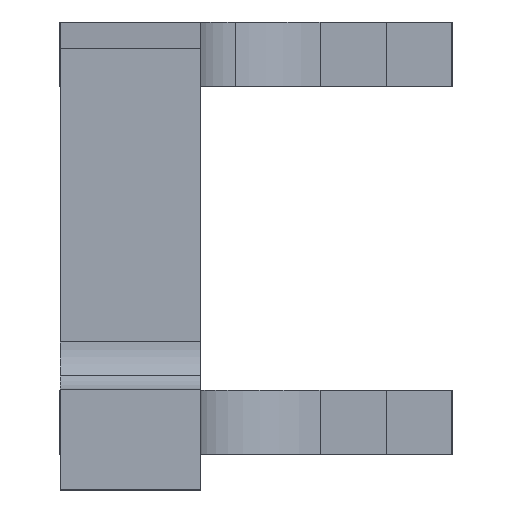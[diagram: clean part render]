
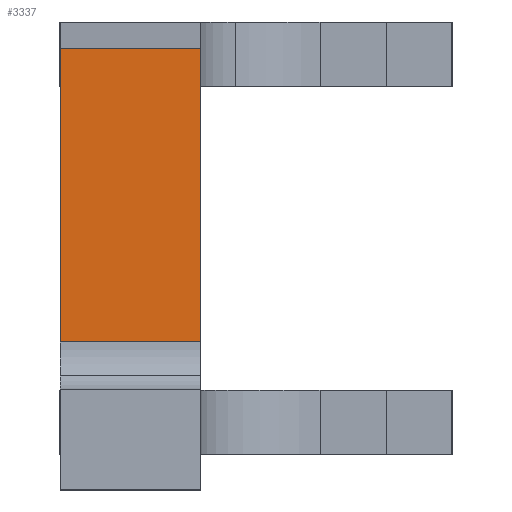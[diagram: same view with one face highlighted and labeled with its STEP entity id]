
A CAD part, left-side view. The second image highlights one B-rep face of the part: STEP entity #3337.
In plain terms, the highlighted planar face has unit normal (-1, 0, 0).
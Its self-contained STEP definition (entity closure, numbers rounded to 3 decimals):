
#2714=CARTESIAN_POINT('',(-132.393,-4.261,12.));
#2715=VERTEX_POINT('',#2714);
#2723=CARTESIAN_POINT('',(-132.393,30.739,12.));
#2724=VERTEX_POINT('',#2723);
#2725=CARTESIAN_POINT('',(-132.393,-4.261,12.));
#2726=DIRECTION('',(0.0,1.0,0.0));
#2727=VECTOR('',#2726,35.);
#2728=LINE('',#2725,#2727);
#2729=EDGE_CURVE('',#2715,#2724,#2728,.T.);
#3224=CARTESIAN_POINT('',(-132.393,30.739,85.301));
#3225=VERTEX_POINT('',#3224);
#3226=CARTESIAN_POINT('',(-132.393,30.739,12.));
#3227=DIRECTION('',(0.0,0.0,1.0));
#3228=VECTOR('',#3227,73.301);
#3229=LINE('',#3226,#3228);
#3230=EDGE_CURVE('',#2724,#3225,#3229,.T.);
#3314=CARTESIAN_POINT('',(-132.393,30.739,92.));
#3315=DIRECTION('',(1.0,0.0,0.0));
#3316=DIRECTION('',(0.0,0.0,-1.0));
#3317=AXIS2_PLACEMENT_3D('',#3314,#3315,#3316);
#3318=PLANE('',#3317);
#3319=CARTESIAN_POINT('',(-132.393,-4.261,85.301));
#3320=VERTEX_POINT('',#3319);
#3321=CARTESIAN_POINT('',(-132.393,-4.261,85.301));
#3322=DIRECTION('',(0.0,0.0,-1.0));
#3323=VECTOR('',#3322,73.301);
#3324=LINE('',#3321,#3323);
#3325=EDGE_CURVE('',#3320,#2715,#3324,.T.);
#3326=ORIENTED_EDGE('',*,*,#3325,.F.);
#3327=CARTESIAN_POINT('',(-132.393,-4.261,85.301));
#3328=DIRECTION('',(0.0,1.0,0.0));
#3329=VECTOR('',#3328,35.);
#3330=LINE('',#3327,#3329);
#3331=EDGE_CURVE('',#3320,#3225,#3330,.T.);
#3332=ORIENTED_EDGE('',*,*,#3331,.T.);
#3333=ORIENTED_EDGE('',*,*,#3230,.F.);
#3334=ORIENTED_EDGE('',*,*,#2729,.F.);
#3335=EDGE_LOOP('',(#3326,#3332,#3333,#3334));
#3336=FACE_OUTER_BOUND('',#3335,.T.);
#3337=ADVANCED_FACE('',(#3336),#3318,.F.);
